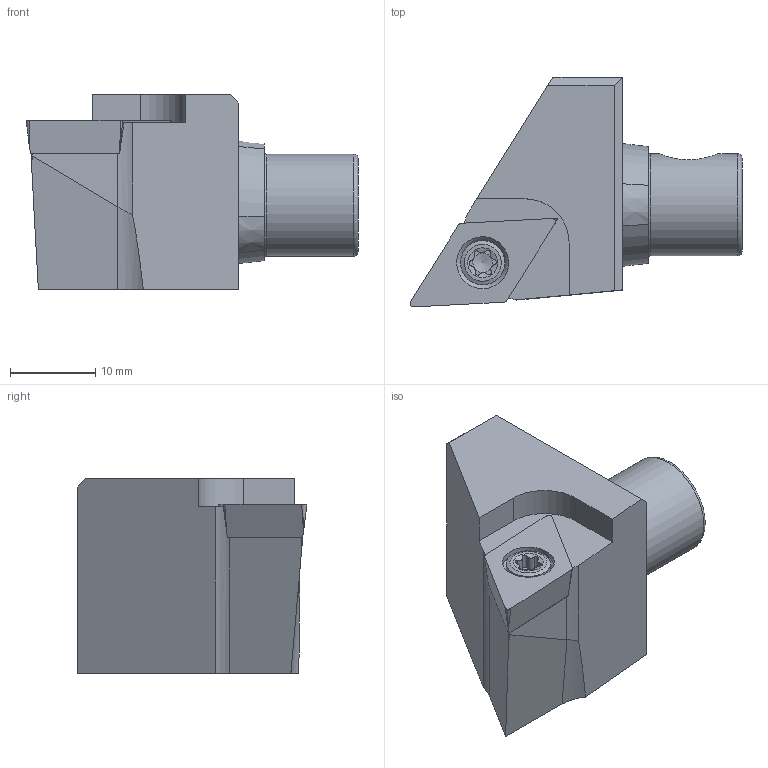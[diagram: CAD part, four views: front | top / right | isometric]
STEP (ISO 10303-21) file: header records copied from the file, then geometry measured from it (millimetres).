
FILE_DESCRIPTION(/* description */ (''),/* implementation_level */ '2;1');
FILE_NAME(/* name */ 'WEBDA_E00019496_00_DIN4003.stp',/* time_stamp */ '2021-09-22T14:47:48+02:00',/* author */ (''),/* organization */ (''),/* preprocessor_version */ 'ST-DEVELOPER v16',/* originating_system */ 'SIEMENS PLM Software NX 11.0',/* authorisation */ '');
FILE_SCHEMA (('AUTOMOTIVE_DESIGN { 1 0 10303 214 3 1 1 1 }'));
Length unit declared in the file: millimetre
Products named in the file (1): ja.h5B84471Btnm5
Bounding box: 39 x 27 x 22.9 mm (x, y, z)
Volume: 10591.7 mm3; surface area: 3859.3 mm2
Topology: 2 solids, 3 shells, 80 faces, 211 edges, 145 vertices
Faces by surface type: plane 34, cylinder 25, cone 18, torus 3
Full cylindrical faces by diameter (mm): 3.15 x1, 3.4 x1, 3.5 x1, 4.4 x1, 5.2 x1, 6.1 x1, 11.995 x1
Entity records: 2766 total; most frequent: CARTESIAN_POINT 789, DIRECTION 416, ORIENTED_EDGE 348, EDGE_CURVE 174, AXIS2_PLACEMENT_3D 165, VERTEX_POINT 121, EDGE_LOOP 102, LINE 86
